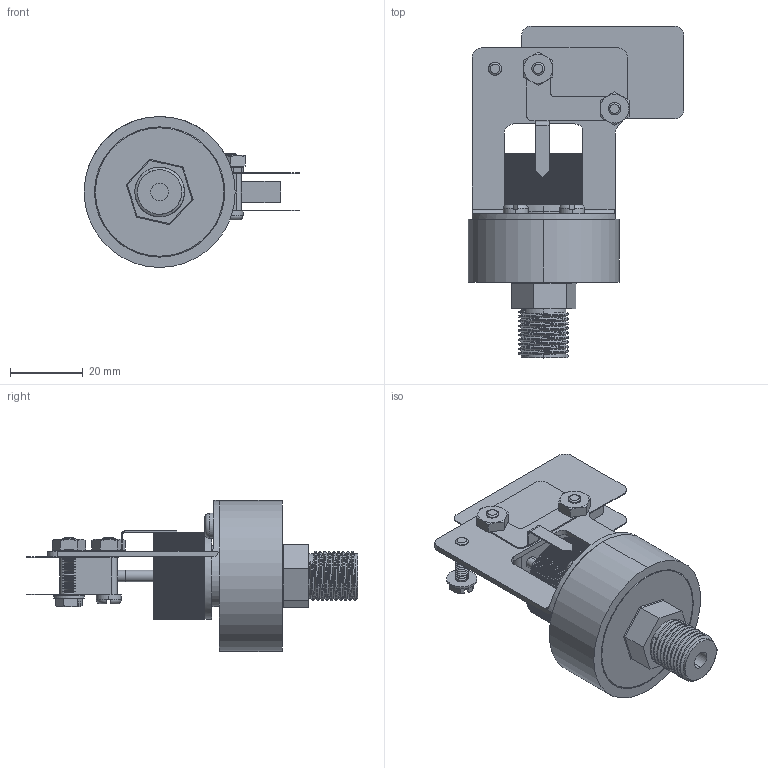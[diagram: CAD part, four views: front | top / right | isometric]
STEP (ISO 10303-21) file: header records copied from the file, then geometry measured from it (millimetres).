
FILE_DESCRIPTION (( 'STEP AP214' ), '1' );
FILE_NAME ('PLM-PS.STEP', '2015-11-06T15:14:28', ( '' ), ( '' ), 'SwSTEP 2.0', 'SolidWorks 2016', '' );
FILE_SCHEMA (( 'AUTOMOTIVE_DESIGN' ));
Length unit declared in the file: inch
Products named in the file (10): hex washer screw_ai_SI-HWMS 0.138-32x0.5x0.5-S; PLM-PS SM Part; PLM-PS White Rect; PLM-PS Top plug; PLM-PS Top2; PLM-PS Body; PLM-PS; pan slot head_ai_SL-PHMS 0.138-40x0.188x0.188-N; pan slot head_ai_SL-PHMS 0.138-32x0.625x0.625-S; machine screw nut hex_ai_MSHXNUT 0.138-32-S-N
Assembly tree (13 placements, depth 2):
  PLM-PS
    PLM-PS Body
    PLM-PS Top2
    PLM-PS Top plug
    PLM-PS White Rect  x2
    PLM-PS SM Part
    hex washer screw_ai_SI-HWMS 0.138-32x0.5x0.5-S
    machine screw nut hex_ai_MSHXNUT 0.138-32-S-N  x2
    pan slot head_ai_SL-PHMS 0.138-32x0.625x0.625-S  x2
    pan slot head_ai_SL-PHMS 0.138-40x0.188x0.188-N  x2
Bounding box: 59.15 x 91.01 x 41.4 mm (x, y, z)
Volume: 42388.7 mm3; surface area: 21503.4 mm2
Topology: 13 solids, 13 shells, 1211 faces, 3343 edges, 2172 vertices
Faces by surface type: plane 700, cone 258, cylinder 242, torus 8, bspline 3
Entity records: 35115 total; most frequent: CARTESIAN_POINT 7626, ORIENTED_EDGE 5746, DIRECTION 5698, EDGE_CURVE 2873, VECTOR 1932, LINE 1932, AXIS2_PLACEMENT_3D 1883, VERTEX_POINT 1876
